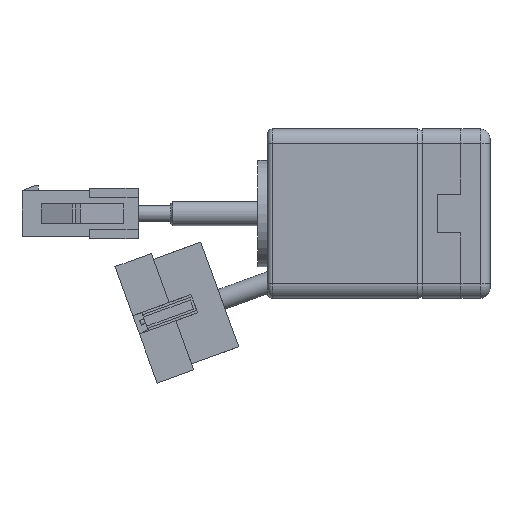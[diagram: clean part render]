
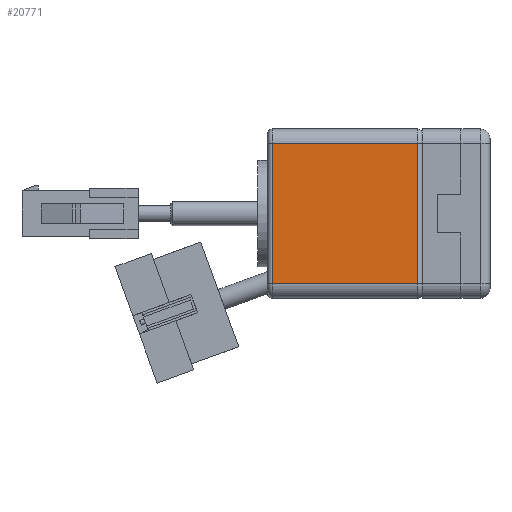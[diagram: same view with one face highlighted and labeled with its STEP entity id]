
A CAD part, front view. The second image highlights one B-rep face of the part: STEP entity #20771.
In plain terms, the highlighted planar face has unit normal (0, -1, 0).
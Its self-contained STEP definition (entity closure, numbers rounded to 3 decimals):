
#1021 = LINE ( 'NONE', #15303, #10619 ) ;
#1050 = VERTEX_POINT ( 'NONE', #13507 ) ;
#1352 = CARTESIAN_POINT ( 'NONE',  ( 31., 0., -32. ) ) ;
#1729 = VERTEX_POINT ( 'NONE', #4123 ) ;
#3862 = LINE ( 'NONE', #8991, #17694 ) ;
#4123 = CARTESIAN_POINT ( 'NONE',  ( 1., 0., -32. ) ) ;
#5846 = FACE_OUTER_BOUND ( 'NONE', #17586, .T. ) ;
#7531 = EDGE_CURVE ( 'NONE', #1729, #11553, #3862, .T. ) ;
#7950 = DIRECTION ( 'NONE',  ( 0., 1., 0. ) ) ;
#8580 = EDGE_CURVE ( 'NONE', #1050, #1729, #1021, .T. ) ;
#8991 = CARTESIAN_POINT ( 'NONE',  ( 32., 0., -32. ) ) ;
#9479 = ORIENTED_EDGE ( 'NONE', *, *, #7531, .T. ) ;
#9889 = DIRECTION ( 'NONE',  ( 0., 0., -1. ) ) ;
#9942 = AXIS2_PLACEMENT_3D ( 'NONE', #18759, #7950, #20556 ) ;
#10363 = DIRECTION ( 'NONE',  ( 0., 0., 1. ) ) ;
#10619 = VECTOR ( 'NONE', #9889, 1000. ) ;
#11322 = ORIENTED_EDGE ( 'NONE', *, *, #21744, .T. ) ;
#11553 = VERTEX_POINT ( 'NONE', #1352 ) ;
#12272 = LINE ( 'NONE', #12566, #17616 ) ;
#12433 = ORIENTED_EDGE ( 'NONE', *, *, #8580, .T. ) ;
#12566 = CARTESIAN_POINT ( 'NONE',  ( 1., 0., -3. ) ) ;
#13141 = VECTOR ( 'NONE', #10363, 1000. ) ;
#13333 = PLANE ( 'NONE',  #9942 ) ;
#13507 = CARTESIAN_POINT ( 'NONE',  ( 1., 0., -3. ) ) ;
#15303 = CARTESIAN_POINT ( 'NONE',  ( 1., 0., 0. ) ) ;
#15681 = CARTESIAN_POINT ( 'NONE',  ( 31., 0., 0. ) ) ;
#17586 = EDGE_LOOP ( 'NONE', ( #11322, #21620, #12433, #9479 ) ) ;
#17616 = VECTOR ( 'NONE', #17987, 1000. ) ;
#17694 = VECTOR ( 'NONE', #19751, 1000. ) ;
#17987 = DIRECTION ( 'NONE',  ( -1., 0., 0. ) ) ;
#18516 = CARTESIAN_POINT ( 'NONE',  ( 31., 0., -3. ) ) ;
#18759 = CARTESIAN_POINT ( 'NONE',  ( 32., 0., 0. ) ) ;
#19751 = DIRECTION ( 'NONE',  ( 1., 0., 0. ) ) ;
#20556 = DIRECTION ( 'NONE',  ( 0., 0., 1. ) ) ;
#20771 = ADVANCED_FACE ( 'NONE', ( #5846 ), #13333, .F. ) ;
#21620 = ORIENTED_EDGE ( 'NONE', *, *, #23135, .T. ) ;
#21744 = EDGE_CURVE ( 'NONE', #11553, #23309, #22737, .T. ) ;
#22737 = LINE ( 'NONE', #15681, #13141 ) ;
#23135 = EDGE_CURVE ( 'NONE', #23309, #1050, #12272, .T. ) ;
#23309 = VERTEX_POINT ( 'NONE', #18516 ) ;
